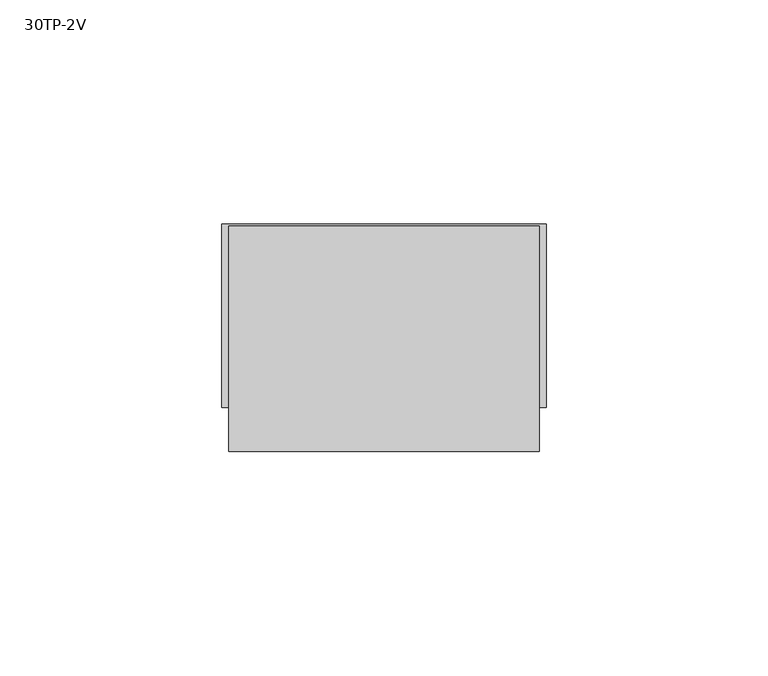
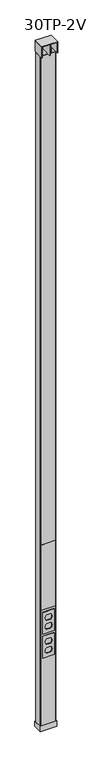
"""IFC4 building model written with IfcOpenShell, lengths in millimetres: proxy geometry, Vertical_Drop_Pole-Wiremold-Tele_Power_Pole-2V : 30TP-2V."""

import ifcopenshell
import ifcopenshell.guid

model = None  # the IFC model being written
_history = None  # IfcOwnerHistory: only IFC2X3 demands one
_inside = {}  # id of a spatial element -> (the spatial element, [elements in it])
_under = {}  # id of a project, library or spatial element -> (it, [spatial elements below it])
_declared = {}  # id of a project -> (the project, [libraries it declares])
_typed = {}  # id of a type object -> (the type object, [elements of that type])
_made_of = {}  # id of a material, layer set ... -> (it, [elements and type objects made of it])


def new_model(schema):
    """Start an empty IFC model of exactly this schema.

    Asked for "IFC4X3", IfcOpenShell would pick the latest addendum, in which some entities
    have other attributes; the version numbers below select the first issue.
    IFC2X3 requires an IfcOwnerHistory on every rooted entity: one is made here for all.
    """
    global model, _history
    if schema == "IFC4X3":
        model = ifcopenshell.file(schema_version=(4, 3, 0, 0))
    else:
        model = ifcopenshell.file(schema=schema)
    _inside.clear()
    _under.clear()
    _declared.clear()
    _typed.clear()
    _made_of.clear()
    _history = None
    if model.schema == "IFC2X3":
        org = make("IfcOrganization", Name="unknown")
        user = make(
            "IfcPersonAndOrganization",
            ThePerson=make("IfcPerson", FamilyName="unknown"),
            TheOrganization=org,
        )
        app = make(
            "IfcApplication",
            ApplicationDeveloper=org,
            Version="unknown",
            ApplicationFullName="unknown",
            ApplicationIdentifier="unknown",
        )
        _history = make(
            "IfcOwnerHistory",
            OwningUser=user,
            OwningApplication=app,
            ChangeAction="ADDED",
            CreationDate=0,
        )
    return model


def make(cls, **values):
    """One entity of the class cls with the attributes given. An attribute that is None is left unset."""
    return model.create_entity(
        cls, **{name: value for name, value in values.items() if value is not None}
    )


def rooted(cls, **values):
    """An entity with a GlobalId (a new one), such as an element, a storey or a relation."""
    return make(cls, GlobalId=ifcopenshell.guid.new(), OwnerHistory=_history, **values)


def si_unit(unit_type, name, prefix=None):
    """IfcSIUnit, for example si_unit("LENGTHUNIT", "METRE", prefix="MILLI")."""
    return make("IfcSIUnit", UnitType=unit_type, Prefix=prefix, Name=name)


def assignment(units):
    """IfcUnitAssignment: the units of a project."""
    return None if units is None else make("IfcUnitAssignment", Units=units)


def point(xyz):
    """IfcCartesianPoint."""
    return None if xyz is None else make("IfcCartesianPoint", Coordinates=xyz)


def direction(xyz):
    """IfcDirection."""
    return None if xyz is None else make("IfcDirection", DirectionRatios=xyz)


def frame(location, z_axis=None, x_axis=None):
    """IfcAxis2Placement3D, a coordinate frame: its origin and axes. An axis left out is left unset."""
    return make(
        "IfcAxis2Placement3D",
        Location=point(location),
        Axis=direction(z_axis),
        RefDirection=direction(x_axis),
    )


def frame_2d(location, x_axis=None):
    """IfcAxis2Placement2D, a coordinate frame in the plane: its origin and x axis."""
    return make(
        "IfcAxis2Placement2D", Location=point(location), RefDirection=direction(x_axis)
    )


def origin():
    """The frame at (0, 0, 0) with its axes left unset."""
    return frame((0.0, 0.0, 0.0))


def origin_with_axes():
    """The frame at (0, 0, 0) with the z axis (0, 0, 1) and the x axis (1, 0, 0) written out."""
    return frame((0.0, 0.0, 0.0), z_axis=(0.0, 0.0, 1.0), x_axis=(1.0, 0.0, 0.0))


def place(relative_to, where):
    """IfcLocalPlacement: puts the frame where relative to a parent placement (None: the world)."""
    return make(
        "IfcLocalPlacement", PlacementRelTo=relative_to, RelativePlacement=where
    )


def context(
    kind, dimensions, precision=None, world=None, true_north=None, identifier=None
):
    """IfcGeometricRepresentationContext, for example the 3D "Model" context."""
    return make(
        "IfcGeometricRepresentationContext",
        ContextIdentifier=identifier,
        ContextType=kind,
        CoordinateSpaceDimension=dimensions,
        Precision=precision,
        WorldCoordinateSystem=world,
        TrueNorth=true_north,
    )


def project(units=None, contexts=None):
    """IfcProject with its units and contexts."""
    return rooted(
        "IfcProject",
        Name="project",
        RepresentationContexts=contexts,
        UnitsInContext=assignment(units),
    )


def spatial(cls, under=None, at=None, **own):
    """A site, building, storey or space (cls), placed at a placement, below another one or the project."""
    s = rooted(cls, ObjectPlacement=at, **own)
    if under is not None:
        _under.setdefault(under.id(), (under, []))[1].append(s)
    return s


def polyline(points):
    """IfcPolyline through the points."""
    return make("IfcPolyline", Points=[point(p) for p in points])


def circle_curve(where, radius):
    """IfcCircle in the frame where."""
    return make("IfcCircle", Position=where, Radius=radius)


def trimmed(basis, trim1, trim2, sense, master):
    """IfcTrimmedCurve: the piece of a basis curve between two trims."""
    return make(
        "IfcTrimmedCurve",
        BasisCurve=basis,
        Trim1=trim1,
        Trim2=trim2,
        SenseAgreement=sense,
        MasterRepresentation=master,
    )


def segment(curve, same_sense, transition):
    """IfcCompositeCurveSegment."""
    return make(
        "IfcCompositeCurveSegment",
        Transition=transition,
        SameSense=same_sense,
        ParentCurve=curve,
    )


def composite_curve(segments, self_intersect=None):
    """IfcCompositeCurve: segments joined end to end."""
    return make("IfcCompositeCurve", Segments=segments, SelfIntersect=self_intersect)


def outline(outer, holes=None, kind="AREA"):
    """IfcArbitraryClosedProfileDef: a profile drawn as a closed curve; with holes, ...WithVoids."""
    if holes is None:
        return make("IfcArbitraryClosedProfileDef", ProfileType=kind, OuterCurve=outer)
    return make(
        "IfcArbitraryProfileDefWithVoids",
        ProfileType=kind,
        OuterCurve=outer,
        InnerCurves=holes,
    )


def extrude(swept, where, along, depth):
    """IfcExtrudedAreaSolid: the profile swept, set in the frame where, extruded along a direction by depth."""
    return make(
        "IfcExtrudedAreaSolid",
        SweptArea=swept,
        Position=where,
        ExtrudedDirection=direction(along),
        Depth=depth,
    )


def shape(context_of_items, identifier, shape_type, items):
    """IfcShapeRepresentation: the items that make up one representation, for example the "Body"."""
    return make(
        "IfcShapeRepresentation",
        ContextOfItems=context_of_items,
        RepresentationIdentifier=identifier,
        RepresentationType=shape_type,
        Items=items,
    )


def source(mapping_origin, context_of_items, identifier, shape_type, items):
    """IfcRepresentationMap: a shape defined once, which mapped items show again and again."""
    return make(
        "IfcRepresentationMap",
        MappingOrigin=mapping_origin,
        MappedRepresentation=shape(context_of_items, identifier, shape_type, items),
    )


def transform(
    local_origin,
    x_axis=None,
    y_axis=None,
    z_axis=None,
    scale=None,
    scale2=None,
    scale3=None,
    uniform=True,
):
    """IfcCartesianTransformationOperator3D, or its non-uniform kind. x_axis, y_axis, z_axis: its Axis1, 2, 3."""
    if uniform:
        return make(
            "IfcCartesianTransformationOperator3D",
            Axis1=direction(x_axis),
            Axis2=direction(y_axis),
            LocalOrigin=point(local_origin),
            Scale=scale,
            Axis3=direction(z_axis),
        )
    return make(
        "IfcCartesianTransformationOperator3DnonUniform",
        Axis1=direction(x_axis),
        Axis2=direction(y_axis),
        LocalOrigin=point(local_origin),
        Scale=scale,
        Axis3=direction(z_axis),
        Scale2=scale2,
        Scale3=scale3,
    )


def mapped(mapping_source, mapping_target):
    """IfcMappedItem: shows the shape of a source again, moved by a transform."""
    return make(
        "IfcMappedItem", MappingSource=mapping_source, MappingTarget=mapping_target
    )


def made_of(thing, what):
    """Note that an element or type object is made of a material, layer set ...; save() writes the relation."""
    if what is not None:
        _made_of.setdefault(what.id(), (what, []))[1].append(thing)
    return thing


def element(
    cls,
    number,
    at=None,
    inside=None,
    cuts=None,
    type_object=None,
    material=None,
    context=None,
    identifier="Body",
    shape_type=None,
    held_by="IfcProductDefinitionShape",
    body=None,
    shapes=None,
    **own,
):
    """One element of the class cls, such as IfcWall. Its Tag is "e" and its number.

    at: its placement. inside: the storey or other place that contains it. cuts: it is an
    opening in that element (IfcRelVoidsElement). A single representation is given by context,
    identifier, shape_type and body (its items); several are given by shapes. held_by: the class
    of the entity that holds the representations. save() writes the other relations.
    """
    e = rooted(cls, Tag="e%d" % number, ObjectPlacement=at, **own)
    if body is not None:
        shapes = [shape(context, identifier, shape_type, body)]
    if shapes is not None:
        e.Representation = make(held_by, Representations=shapes)
    if inside is not None:
        _inside.setdefault(inside.id(), (inside, []))[1].append(e)
    if cuts is not None:
        rooted(
            "IfcRelVoidsElement", RelatingBuildingElement=cuts, RelatedOpeningElement=e
        )
    if type_object is not None:
        _typed.setdefault(type_object.id(), (type_object, []))[1].append(e)
    return made_of(e, material)


def aggregate(whole, parts):
    """IfcRelAggregates: a whole, such as a stair, and the parts it consists of."""
    return rooted("IfcRelAggregates", RelatingObject=whole, RelatedObjects=parts)


def save(model, path):
    """Write the relations noted so far, then the file.

    IfcRelAggregates (storeys below a building ...), IfcRelContainedInSpatialStructure (elements
    in a storey), IfcRelDefinesByType, IfcRelAssociatesMaterial and IfcRelDeclares: one each for
    every whole, place, type object, material and project.
    """
    for whole, parts in _under.values():
        aggregate(whole, parts)
    for where, things in _inside.values():
        rooted(
            "IfcRelContainedInSpatialStructure",
            RelatedElements=things,
            RelatingStructure=where,
        )
    for kind, things in _typed.values():
        rooted("IfcRelDefinesByType", RelatedObjects=things, RelatingType=kind)
    for what, things in _made_of.values():
        rooted("IfcRelAssociatesMaterial", RelatedObjects=things, RelatingMaterial=what)
    for by, libraries in _declared.values():
        rooted("IfcRelDeclares", RelatingContext=by, RelatedDefinitions=libraries)
    model.write(path)


def proxy_30tp_2v_cd16dc79(model_context):
    return source(origin(), model_context, "Body", "SweptSolid", [
        extrude(outline(polyline([(31.0, -15.9657638), (-31.0, -15.9657638), (-31.0, -14.9657638), (31.0, -14.9657638), (31.0, -15.9657638)])), frame((0.0, 0.0, 568.9427083), z_axis=(0.0, 0.0, 1.0), x_axis=(1.0, 0.0, 0.0)), (0.0, 0.0, 1.0), 306.3875),
        extrude(outline(polyline([(-0.8929688, -28.0704513), (-0.8929688, 22.7295487), (0.8929687, 22.7295487), (0.8929687, -28.0704513), (-0.8929688, -28.0704513)])), frame((0.0, 0.0, 3175.0), z_axis=(0.0, 0.0, 1.0), x_axis=(1.0, 0.0, 0.0)), (0.0, 0.0, 1.0), 50.8),
        extrude(outline(polyline([(-23.8969536, 21.1420487), (23.8969536, 21.1420487), (23.8969536, 19.5545487), (-23.8969536, 19.5545487), (-23.8969536, 21.1420487)])), frame((0.0, 0.0, 3148.0125), z_axis=(0.0, 0.0, 1.0), x_axis=(1.0, 0.0, 0.0)), (0.0, 0.0, 1.0), 26.9875),
        extrude(outline(polyline([(-33.3375, 22.7295487), (33.3375, 22.7295487), (33.3375, 21.1420487), (-33.3375, 21.1420487), (-33.3375, 22.7295487)])), frame((0.0, 0.0, 3175.0), z_axis=(0.0, 0.0, 1.0), x_axis=(1.0, 0.0, 0.0)), (0.0, 0.0, 1.0), 50.8),
        extrude(outline(polyline([(-34.925, -28.0704513), (-34.925, 22.7295487), (-33.3375, 22.7295487), (-33.3375, -28.0704513), (-34.925, -28.0704513)])), frame((0.0, 0.0, 3175.0), z_axis=(0.0, 0.0, 1.0), x_axis=(1.0, 0.0, 0.0)), (0.0, 0.0, 1.0), 50.8),
        extrude(outline(polyline([(33.3375, -28.0704513), (33.3375, 22.7295487), (34.925, 22.7295487), (34.925, -28.0704513), (33.3375, -28.0704513)])), frame((0.0, 0.0, 3175.0), z_axis=(0.0, 0.0, 1.0), x_axis=(1.0, 0.0, 0.0)), (0.0, 0.0, 1.0), 50.8),
        extrude(outline(polyline([(-34.925, -28.0704513), (-34.925, 22.7295487), (34.925, 22.7295487), (34.925, -28.0704513), (-34.925, -28.0704513)])), frame((0.0, 0.0, 3225.8), z_axis=(0.0, 0.0, 1.0), x_axis=(1.0, 0.0, 0.0)), (0.0, 0.0, 1.0), 1.5875),
        extrude(outline(polyline([(445.2663959, 25.4), (445.2663959, -25.4), (343.6663959, -25.4), (343.6663959, 25.4), (445.2663959, 25.4)]), holes=[composite_curve([segment(polyline([(428.349599, -7.9339585), (428.349599, 8.0597711)]), True, "CONTINUOUS"), segment(trimmed(circle_curve(frame_2d((416.2783271, 0.9957546)), 13.9862766), [point((428.349599, 8.0597711))], [point((416.2783271, 14.9820313))], True, "CARTESIAN"), True, "CONTINUOUS"), segment(polyline([(416.2783271, 14.9820313), (414.190824, 14.9820313)]), True, "CONTINUOUS"), segment(trimmed(circle_curve(frame_2d((414.190824, 0.9820313)), 14.0), [point((414.190824, 14.9820313))], [point((402.3542865, 8.4584194))], True, "CARTESIAN"), True, "CONTINUOUS"), segment(polyline([(402.3542865, 8.4584194), (402.3542865, -8.3446349)]), True, "CONTINUOUS"), segment(trimmed(circle_curve(frame_2d((414.3186008, -0.8801276)), 14.1019036), [point((402.3542865, -8.3446349))], [point((414.3186008, -14.9820312))], True, "CARTESIAN"), True, "CONTINUOUS"), segment(polyline([(414.3186008, -14.9820312), (416.2361259, -14.9820312)]), True, "CONTINUOUS"), segment(trimmed(circle_curve(frame_2d((416.2361259, -1.0483243)), 13.933707), [point((416.2361259, -14.9820312))], [point((428.349599, -7.9339585))], True, "CARTESIAN"), True, "CONTINUOUS")], self_intersect=False), composite_curve([segment(polyline([(386.5785052, -8.6075876), (386.5785052, 8.7168414)]), True, "CONTINUOUS"), segment(trimmed(circle_curve(frame_2d((374.9207619, 1.0035576)), 13.9784736), [point((386.5785052, 8.7168414))], [point((374.9207619, 14.9820313))], True, "CARTESIAN"), True, "CONTINUOUS"), segment(polyline([(374.9207619, 14.9820313), (372.8263017, 14.9820313)]), True, "CONTINUOUS"), segment(trimmed(circle_curve(frame_2d((372.8263017, 0.9731741)), 14.0088572), [point((372.8263017, 14.9820313))], [point((360.5831927, 7.7815778))], True, "CARTESIAN"), True, "CONTINUOUS"), segment(polyline([(360.5831927, 7.7815778), (360.5831927, -7.6594621)]), True, "CONTINUOUS"), segment(trimmed(circle_curve(frame_2d((372.9539054, -0.8712357)), 14.1107955), [point((360.5831927, -7.6594621))], [point((372.9539054, -14.9820312))], True, "CARTESIAN"), True, "CONTINUOUS"), segment(polyline([(372.9539054, -14.9820312), (374.8785806, -14.9820312)]), True, "CONTINUOUS"), segment(trimmed(circle_curve(frame_2d((374.8785806, -1.0575402)), 13.9244911), [point((374.8785806, -14.9820312))], [point((386.5785052, -8.6075876))], True, "CARTESIAN"), True, "CONTINUOUS")], self_intersect=False)]), frame((0.0, -19.1407638, 0.0), z_axis=(0.0, 1.0, 0.0), x_axis=(0.0, 0.0, 1.0)), (0.0, 0.0, 1.0), 3.175),
        extrude(outline(polyline([(557.8798176, 25.4), (557.8798176, -25.4), (456.2798176, -25.4), (456.2798176, 25.4), (557.8798176, 25.4)]), holes=[composite_curve([segment(polyline([(540.9630208, -7.9339585), (540.9630208, 8.0597711)]), True, "CONTINUOUS"), segment(trimmed(circle_curve(frame_2d((528.8917489, 0.9957546)), 13.9862766), [point((540.9630208, 8.0597711))], [point((528.8917489, 14.9820313))], True, "CARTESIAN"), True, "CONTINUOUS"), segment(polyline([(528.8917489, 14.9820313), (526.8042458, 14.9820313)]), True, "CONTINUOUS"), segment(trimmed(circle_curve(frame_2d((526.8042458, 0.9820313)), 14.0), [point((526.8042458, 14.9820313))], [point((514.9677083, 8.4584194))], True, "CARTESIAN"), True, "CONTINUOUS"), segment(polyline([(514.9677083, 8.4584194), (514.9677083, -8.3446349)]), True, "CONTINUOUS"), segment(trimmed(circle_curve(frame_2d((526.9320226, -0.8801276)), 14.1019036), [point((514.9677083, -8.3446349))], [point((526.9320226, -14.9820312))], True, "CARTESIAN"), True, "CONTINUOUS"), segment(polyline([(526.9320226, -14.9820312), (528.8495476, -14.9820312)]), True, "CONTINUOUS"), segment(trimmed(circle_curve(frame_2d((528.8495476, -1.0483243)), 13.933707), [point((528.8495476, -14.9820312))], [point((540.9630208, -7.9339585))], True, "CARTESIAN"), True, "CONTINUOUS")], self_intersect=False), composite_curve([segment(polyline([(499.191927, -8.6075876), (499.191927, 8.7168414)]), True, "CONTINUOUS"), segment(trimmed(circle_curve(frame_2d((487.5341837, 1.0035576)), 13.9784736), [point((499.191927, 8.7168414))], [point((487.5341837, 14.9820313))], True, "CARTESIAN"), True, "CONTINUOUS"), segment(polyline([(487.5341837, 14.9820313), (485.4397235, 14.9820313)]), True, "CONTINUOUS"), segment(trimmed(circle_curve(frame_2d((485.4397235, 0.9731741)), 14.0088572), [point((485.4397235, 14.9820313))], [point((473.1966145, 7.7815778))], True, "CARTESIAN"), True, "CONTINUOUS"), segment(polyline([(473.1966145, 7.7815778), (473.1966145, -7.6594621)]), True, "CONTINUOUS"), segment(trimmed(circle_curve(frame_2d((485.5673272, -0.8712357)), 14.1107955), [point((473.1966145, -7.6594621))], [point((485.5673272, -14.9820312))], True, "CARTESIAN"), True, "CONTINUOUS"), segment(polyline([(485.5673272, -14.9820312), (487.4920024, -14.9820312)]), True, "CONTINUOUS"), segment(trimmed(circle_curve(frame_2d((487.4920024, -1.0575402)), 13.9244911), [point((487.4920024, -14.9820312))], [point((499.191927, -8.6075876))], True, "CARTESIAN"), True, "CONTINUOUS")], self_intersect=False)]), frame((0.0, -19.1407638, 0.0), z_axis=(0.0, 1.0, 0.0), x_axis=(0.0, 0.0, 1.0)), (0.0, 0.0, 1.0), 3.175),
        extrude(outline(composite_curve([segment(trimmed(circle_curve(frame_2d((30.925, 18.1342362)), 4.0), [point((30.925, 22.1342362))], [point((34.925, 18.1342362))], False, "CARTESIAN"), True, "CONTINUOUS"), segment(polyline([(34.925, 18.1342362), (34.925, -11.9657638)]), True, "CONTINUOUS"), segment(trimmed(circle_curve(frame_2d((30.925, -11.9657638)), 4.0), [point((34.925, -11.9657638))], [point((30.925, -15.9657638))], False, "CARTESIAN"), True, "CONTINUOUS"), segment(polyline([(30.925, -15.9657638), (-30.925, -15.9657638)]), True, "CONTINUOUS"), segment(trimmed(circle_curve(frame_2d((-30.925, -11.9657638)), 4.0), [point((-30.925, -15.9657638))], [point((-34.925, -11.9657638))], False, "CARTESIAN"), True, "CONTINUOUS"), segment(polyline([(-34.925, -11.9657638), (-34.925, 18.1342362)]), True, "CONTINUOUS"), segment(trimmed(circle_curve(frame_2d((-30.925, 18.1342362)), 4.0), [point((-34.925, 18.1342362))], [point((-30.925, 22.1342362))], False, "CARTESIAN"), True, "CONTINUOUS"), segment(polyline([(-30.925, 22.1342362), (30.925, 22.1342362)]), True, "CONTINUOUS")], self_intersect=False), holes=[composite_curve([segment(trimmed(circle_curve(frame_2d((-29.925, -10.9657638)), 4.0), [point((-33.925, -10.9657638))], [point((-29.925, -14.9657638))], True, "CARTESIAN"), True, "CONTINUOUS"), segment(polyline([(-29.925, -14.9657638), (29.925, -14.9657638)]), True, "CONTINUOUS"), segment(trimmed(circle_curve(frame_2d((29.925, -10.9657638)), 4.0), [point((29.925, -14.9657638))], [point((33.925, -10.9657638))], True, "CARTESIAN"), True, "CONTINUOUS"), segment(polyline([(33.925, -10.9657638), (33.925, 17.1342362)]), True, "CONTINUOUS"), segment(trimmed(circle_curve(frame_2d((29.925, 17.1342362)), 4.0), [point((33.925, 17.1342362))], [point((29.925, 21.1342362))], True, "CARTESIAN"), True, "CONTINUOUS"), segment(polyline([(29.925, 21.1342362), (-29.925, 21.1342362)]), True, "CONTINUOUS"), segment(trimmed(circle_curve(frame_2d((-29.925, 17.1342362)), 4.0), [point((-29.925, 21.1342362))], [point((-33.925, 17.1342362))], True, "CARTESIAN"), True, "CONTINUOUS"), segment(polyline([(-33.925, 17.1342362), (-33.925, -10.9657638)]), True, "CONTINUOUS")], self_intersect=False)]), origin_with_axes(), (0.0, 0.0, 1.0), 3175.0),
        extrude(outline(polyline([(-36.5125, 23.7217362), (36.5125, 23.7217362), (36.5125, -17.5532638), (-36.5125, -17.5532638), (-36.5125, 23.7217362)]), holes=[polyline([(34.925, 22.1342362), (-34.925, 22.1342362), (-34.925, -15.9657638), (34.925, -15.9657638), (34.925, 22.1342362)])]), origin_with_axes(), (0.0, 0.0, 1.0), 25.4),
    ])


if __name__ == "__main__":
    model = new_model("IFC4")
    model_context = context("Model", 3, world=origin())
    ifc_project = project(units=[si_unit("LENGTHUNIT", "METRE", prefix="MILLI")], contexts=[model_context])
    site = spatial("IfcSite", under=ifc_project)
    building = spatial("IfcBuilding", under=site)
    placement = place(None, origin())
    proxy_30tp_2v_shape = proxy_30tp_2v_cd16dc79(model_context)
    element("IfcBuildingElementProxy", 1, Name="Vertical_Drop_Pole-Wiremold-Tele_Power_Pole-2V : 30TP-2V", ObjectType="Vertical_Drop_Pole-Wiremold-Tele_Power_Pole-2V : 30TP-2V", at=placement, inside=building, context=model_context, shape_type="MappedRepresentation", body=[
        mapped(proxy_30tp_2v_shape, transform((0.0, 0.0, 0.0), x_axis=(1.0, 0.0, 0.0), y_axis=(0.0, 1.0, 0.0), z_axis=(0.0, 0.0, 1.0))),
    ])
    save(model, "model.ifc")
